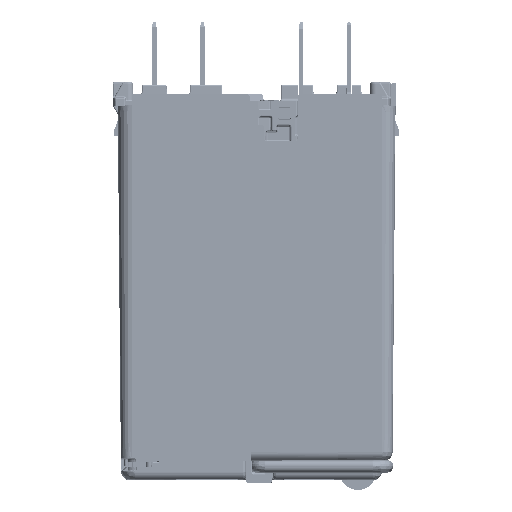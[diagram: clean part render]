
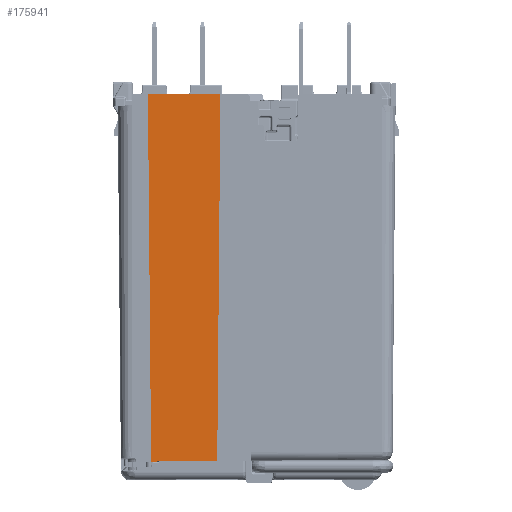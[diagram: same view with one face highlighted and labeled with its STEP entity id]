
A CAD part, left-side view. The second image highlights one B-rep face of the part: STEP entity #175941.
In plain terms, the highlighted planar face has unit normal (-1, 0, -0.009) as drawn and (1, 0, 0.009) by its records, which use the part's own axes.
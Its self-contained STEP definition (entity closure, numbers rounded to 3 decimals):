
#5071 = CARTESIAN_POINT ( 'NONE',  ( 35.416, 16.907, 70.659 ) ) ;
#24703 = DIRECTION ( 'NONE',  ( 0., 1., 0. ) ) ;
#29368 = VECTOR ( 'NONE', #374674, 1000. ) ;
#33400 = VERTEX_POINT ( 'NONE', #260806 ) ;
#62094 = LINE ( 'NONE', #376228, #149546 ) ;
#66531 = ORIENTED_EDGE ( 'NONE', *, *, #313524, .T. ) ;
#70289 = LINE ( 'NONE', #419772, #256977 ) ;
#72949 = ORIENTED_EDGE ( 'NONE', *, *, #78730, .F. ) ;
#74413 = CARTESIAN_POINT ( 'NONE',  ( 35.415, 17.107, 70.802 ) ) ;
#74505 = VERTEX_POINT ( 'NONE', #217808 ) ;
#78393 = CARTESIAN_POINT ( 'NONE',  ( 35.415, 17.107, 70.802 ) ) ;
#78730 = EDGE_CURVE ( 'NONE', #74505, #276736, #62094, .T. ) ;
#82583 = ORIENTED_EDGE ( 'NONE', *, *, #308830, .F. ) ;
#85377 = VECTOR ( 'NONE', #359002, 1000. ) ;
#89599 = DIRECTION ( 'NONE',  ( -1., 0., -0.009 ) ) ;
#96583 = FACE_OUTER_BOUND ( 'NONE', #326017, .T. ) ;
#114009 = DIRECTION ( 'NONE',  ( 0.009, 0.009, -1. ) ) ;
#118412 = DIRECTION ( 'NONE',  ( 0., 1., 0. ) ) ;
#120399 = LINE ( 'NONE', #135862, #85377 ) ;
#134183 = CARTESIAN_POINT ( 'NONE',  ( 35.981, 5.815, 5.852 ) ) ;
#135862 = CARTESIAN_POINT ( 'NONE',  ( 35.981, 21.466, 5.852 ) ) ;
#149546 = VECTOR ( 'NONE', #114009, 1000. ) ;
#153342 = CARTESIAN_POINT ( 'NONE',  ( 35.415, 17.052, 70.802 ) ) ;
#156233 = ORIENTED_EDGE ( 'NONE', *, *, #198438, .F. ) ;
#160179 = CARTESIAN_POINT ( 'NONE',  ( 35.416, 16.907, 70.604 ) ) ;
#175941 = ADVANCED_FACE ( 'NONE', ( #96583 ), #237893, .F. ) ;
#190653 = CARTESIAN_POINT ( 'NONE',  ( 35.417, 6.379, 70.552 ) ) ;
#198438 = EDGE_CURVE ( 'NONE', #33400, #202986, #70289, .T. ) ;
#202986 = VERTEX_POINT ( 'NONE', #253982 ) ;
#213907 = CARTESIAN_POINT ( 'NONE',  ( 35.417, 16.906, 70.552 ) ) ;
#216135 = VERTEX_POINT ( 'NONE', #74413 ) ;
#216545 = CARTESIAN_POINT ( 'NONE',  ( 35.981, 18.618, 5.852 ) ) ;
#217808 = CARTESIAN_POINT ( 'NONE',  ( 35.415, 18.051, 70.802 ) ) ;
#220591 = VERTEX_POINT ( 'NONE', #213907 ) ;
#225508 = ORIENTED_EDGE ( 'NONE', *, *, #336744, .T. ) ;
#228321 = CARTESIAN_POINT ( 'NONE',  ( 35.415, 16.927, 70.706 ) ) ;
#237893 = PLANE ( 'NONE',  #386484 ) ;
#243082 = LINE ( 'NONE', #160179, #318767 ) ;
#253982 = CARTESIAN_POINT ( 'NONE',  ( 35.417, 13.866, 70.552 ) ) ;
#254578 = ORIENTED_EDGE ( 'NONE', *, *, #294834, .T. ) ;
#256977 = VECTOR ( 'NONE', #118412, 1000. ) ;
#260806 = CARTESIAN_POINT ( 'NONE',  ( 35.417, 6.379, 70.552 ) ) ;
#263748 = VERTEX_POINT ( 'NONE', #433706 ) ;
#265807 = CARTESIAN_POINT ( 'NONE',  ( 35.416, 16.907, 70.604 ) ) ;
#272249 = CARTESIAN_POINT ( 'NONE',  ( 35.417, 6.379, 70.552 ) ) ;
#276736 = VERTEX_POINT ( 'NONE', #216545 ) ;
#286743 = VERTEX_POINT ( 'NONE', #340670 ) ;
#294834 = EDGE_CURVE ( 'NONE', #263748, #276736, #120399, .T. ) ;
#306426 = ORIENTED_EDGE ( 'NONE', *, *, #443001, .F. ) ;
#308830 = EDGE_CURVE ( 'NONE', #202986, #220591, #437482, .T. ) ;
#313524 = EDGE_CURVE ( 'NONE', #216135, #286743, #445421, .T. ) ;
#315944 = VECTOR ( 'NONE', #357317, 1000. ) ;
#318767 = VECTOR ( 'NONE', #345842, 1000. ) ;
#326017 = EDGE_LOOP ( 'NONE', ( #254578, #72949, #306426, #66531, #225508, #82583, #156233, #356221 ) ) ;
#327444 = EDGE_CURVE ( 'NONE', #263748, #33400, #438411, .T. ) ;
#336744 = EDGE_CURVE ( 'NONE', #286743, #220591, #243082, .T. ) ;
#340670 = CARTESIAN_POINT ( 'NONE',  ( 35.416, 16.907, 70.604 ) ) ;
#345842 = DIRECTION ( 'NONE',  ( 0.009, -0.009, -1. ) ) ;
#350191 = DIRECTION ( 'NONE',  ( -0.009, 0., 1. ) ) ;
#356221 = ORIENTED_EDGE ( 'NONE', *, *, #327444, .F. ) ;
#357317 = DIRECTION ( 'NONE',  ( -0.009, 0.009, 1. ) ) ;
#359002 = DIRECTION ( 'NONE',  ( 0., 1., 0. ) ) ;
#374674 = DIRECTION ( 'NONE',  ( 0., 1., 0. ) ) ;
#376228 = CARTESIAN_POINT ( 'NONE',  ( 35.417, 18.053, 70.552 ) ) ;
#386484 = AXIS2_PLACEMENT_3D ( 'NONE', #272249, #89599, #350191 ) ;
#419764 = VECTOR ( 'NONE', #24703, 1000. ) ;
#419772 = CARTESIAN_POINT ( 'NONE',  ( 35.417, 6.379, 70.552 ) ) ;
#431429 = LINE ( 'NONE', #471109, #419764 ) ;
#433706 = CARTESIAN_POINT ( 'NONE',  ( 35.981, 5.815, 5.852 ) ) ;
#437482 = LINE ( 'NONE', #190653, #29368 ) ;
#438411 = LINE ( 'NONE', #134183, #315944 ) ;
#443001 = EDGE_CURVE ( 'NONE', #216135, #74505, #431429, .T. ) ;
#445421 = B_SPLINE_CURVE_WITH_KNOTS ( 'NONE', 3,
 ( #78393, #153342, #451466, #228321, #5071, #265807 ),
 .UNSPECIFIED., .F., .F.,
 ( 4, 2, 4 ),
 ( 0., 0.5, 1. ),
 .UNSPECIFIED. ) ;
#451466 = CARTESIAN_POINT ( 'NONE',  ( 35.415, 17.005, 70.783 ) ) ;
#471109 = CARTESIAN_POINT ( 'NONE',  ( 35.415, 21.402, 70.802 ) ) ;
